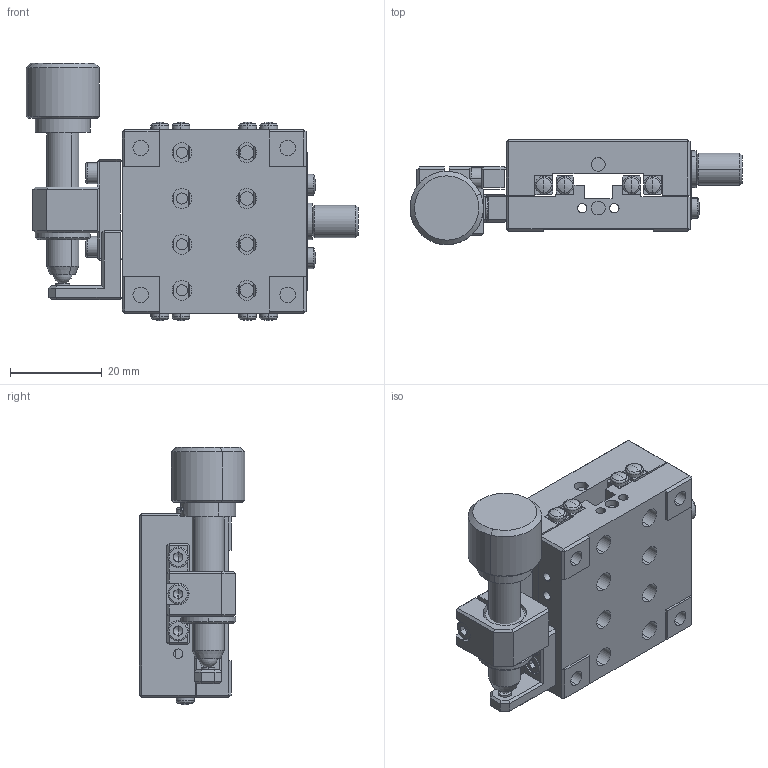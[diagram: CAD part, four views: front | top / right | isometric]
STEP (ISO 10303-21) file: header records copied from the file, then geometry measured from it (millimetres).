
FILE_DESCRIPTION (( 'STEP AP203' ), '1' );
FILE_NAME ('AK13-4020LZ.step', '2019-05-08T06:21:38', ( '' ), ( '' ), 'SwSTEP 2.0', 'SolidWorks 2017', '' );
FILE_SCHEMA (( 'CONFIG_CONTROL_DESIGN' ));
Length unit declared in the file: millimetre
Products named in the file (1): AK13-4020LZ
Bounding box: 72.29 x 22.99 x 56.03 mm (x, y, z)
Surface area: 18144.2 mm2 (no closed solid volume)
Topology: 0 solids, 32 shells, 665 faces, 2146 edges, 1433 vertices
Faces by surface type: plane 419, cylinder 150, cone 32, bspline 32, torus 26, sphere 6
Entity records: 23678 total; most frequent: CARTESIAN_POINT 4843, DIRECTION 4016, ORIENTED_EDGE 3480, EDGE_CURVE 2107, VERTEX_POINT 1430, LINE 1386, VECTOR 1386, AXIS2_PLACEMENT_3D 1315
